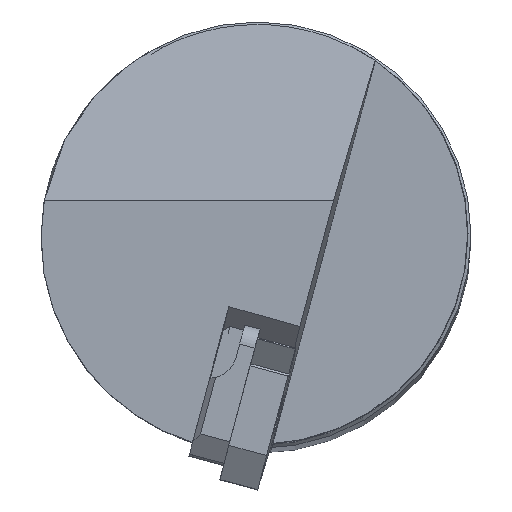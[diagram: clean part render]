
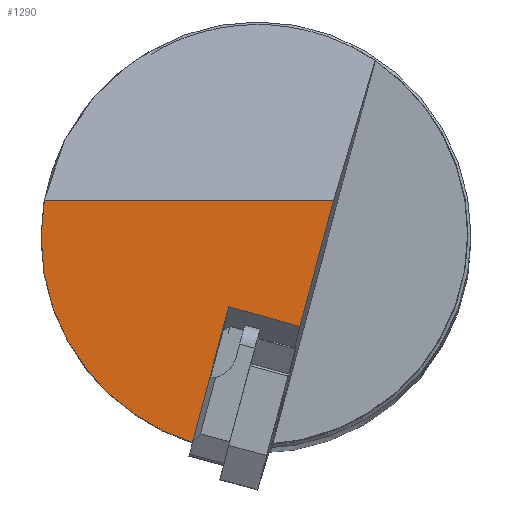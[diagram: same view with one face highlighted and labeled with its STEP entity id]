
A CAD part, top view. The second image highlights one B-rep face of the part: STEP entity #1290.
In plain terms, the highlighted planar face has unit normal (0, 0, 1).
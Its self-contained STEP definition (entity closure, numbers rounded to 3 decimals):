
#11 = EDGE_CURVE ( 'NONE', #822, #183, #43, .T. ) ;
#13 = AXIS2_PLACEMENT_3D ( 'NONE', #1302, #1308, #56 ) ;
#43 = LINE ( 'NONE', #1116, #1637 ) ;
#56 = DIRECTION ( 'NONE',  ( 1., 0., 0. ) ) ;
#130 = EDGE_CURVE ( 'NONE', #504, #183, #2289, .T. ) ;
#183 = VERTEX_POINT ( 'NONE', #1025 ) ;
#208 = CIRCLE ( 'NONE', #13, 19.133 ) ;
#214 = DIRECTION ( 'NONE',  ( 0.259, 0.966, 0. ) ) ;
#258 = CARTESIAN_POINT ( 'NONE',  ( 6.777, 3., 0. ) ) ;
#285 = VERTEX_POINT ( 'NONE', #304 ) ;
#304 = CARTESIAN_POINT ( 'NONE',  ( -19.058, 3., 0. ) ) ;
#321 = CARTESIAN_POINT ( 'NONE',  ( 3.763, -8.25, 0. ) ) ;
#395 = AXIS2_PLACEMENT_3D ( 'NONE', #1703, #810, #2083 ) ;
#504 = VERTEX_POINT ( 'NONE', #321 ) ;
#613 = DIRECTION ( 'NONE',  ( 1., 0., 0. ) ) ;
#650 = EDGE_CURVE ( 'NONE', #1981, #822, #1699, .T. ) ;
#709 = LINE ( 'NONE', #1440, #1793 ) ;
#721 = ORIENTED_EDGE ( 'NONE', *, *, #1706, .T. ) ;
#776 = CARTESIAN_POINT ( 'NONE',  ( -15.123, -12.311, 0. ) ) ;
#810 = DIRECTION ( 'NONE',  ( 0., 0., 1. ) ) ;
#822 = VERTEX_POINT ( 'NONE', #2270 ) ;
#874 = AXIS2_PLACEMENT_3D ( 'NONE', #1900, #1529, #613 ) ;
#954 = LINE ( 'NONE', #2075, #2217 ) ;
#1025 = CARTESIAN_POINT ( 'NONE',  ( -2.577, -6.485, 0. ) ) ;
#1116 = CARTESIAN_POINT ( 'NONE',  ( -0.783, 0.21, 0. ) ) ;
#1290 = ADVANCED_FACE ( 'NONE', ( #2308 ), #1327, .T. ) ;
#1292 = EDGE_CURVE ( 'NONE', #285, #1594, #954, .T. ) ;
#1302 = CARTESIAN_POINT ( 'NONE',  ( -0.215, -0.317, 0. ) ) ;
#1308 = DIRECTION ( 'NONE',  ( 0., 0., 1. ) ) ;
#1309 = ORIENTED_EDGE ( 'NONE', *, *, #650, .T. ) ;
#1313 = EDGE_LOOP ( 'NONE', ( #2342, #721, #1309, #1716, #1453, #1424 ) ) ;
#1327 = PLANE ( 'NONE',  #395 ) ;
#1424 = ORIENTED_EDGE ( 'NONE', *, *, #2203, .F. ) ;
#1433 = DIRECTION ( 'NONE',  ( -0.259, -0.966, 0. ) ) ;
#1440 = CARTESIAN_POINT ( 'NONE',  ( 11.681, 21.302, 0. ) ) ;
#1453 = ORIENTED_EDGE ( 'NONE', *, *, #130, .F. ) ;
#1529 = DIRECTION ( 'NONE',  ( 0., 0., 1. ) ) ;
#1594 = VERTEX_POINT ( 'NONE', #258 ) ;
#1637 = VECTOR ( 'NONE', #214, 1000. ) ;
#1699 = CIRCLE ( 'NONE', #874, 19.5 ) ;
#1703 = CARTESIAN_POINT ( 'NONE',  ( 0., 0., 0. ) ) ;
#1706 = EDGE_CURVE ( 'NONE', #285, #1981, #208, .T. ) ;
#1716 = ORIENTED_EDGE ( 'NONE', *, *, #11, .T. ) ;
#1735 = CARTESIAN_POINT ( 'NONE',  ( -1.861, -6.685, 0. ) ) ;
#1793 = VECTOR ( 'NONE', #1433, 1000. ) ;
#1900 = CARTESIAN_POINT ( 'NONE',  ( 0., 0., 0. ) ) ;
#1981 = VERTEX_POINT ( 'NONE', #776 ) ;
#2010 = DIRECTION ( 'NONE',  ( 1., 0., 0. ) ) ;
#2075 = CARTESIAN_POINT ( 'NONE',  ( -19.5, 3., 0. ) ) ;
#2083 = DIRECTION ( 'NONE',  ( 1., 0., 0. ) ) ;
#2101 = VECTOR ( 'NONE', #2118, 1000. ) ;
#2118 = DIRECTION ( 'NONE',  ( -0.963, 0.268, 0. ) ) ;
#2203 = EDGE_CURVE ( 'NONE', #1594, #504, #709, .T. ) ;
#2217 = VECTOR ( 'NONE', #2010, 1000. ) ;
#2270 = CARTESIAN_POINT ( 'NONE',  ( -5.826, -18.609, 0. ) ) ;
#2289 = LINE ( 'NONE', #1735, #2101 ) ;
#2308 = FACE_OUTER_BOUND ( 'NONE', #1313, .T. ) ;
#2342 = ORIENTED_EDGE ( 'NONE', *, *, #1292, .F. ) ;
